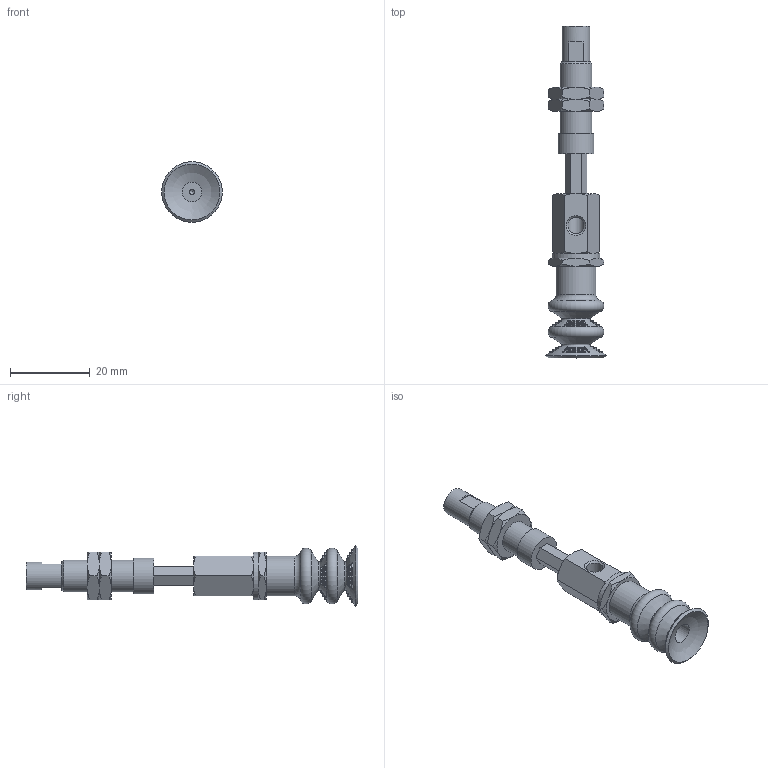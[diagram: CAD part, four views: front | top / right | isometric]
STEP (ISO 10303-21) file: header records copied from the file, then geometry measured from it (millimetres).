
FILE_DESCRIPTION(('STEP AP203'),'1');
FILE_NAME('.stp','2025-04-04T01:10:42',(' '),(' '),'Spatial InterOp 3D',' ',' ');
FILE_SCHEMA(('CONFIG_CONTROL_DESIGN'));
Length unit declared in the file: millimetre
Products named in the file (7): BNABPCYH-15-10-※; Adapter_napc-15-T; Connector_h-15-10; Nut napc_h-15-10; NAPCTH-15-10-FBODY; NAPCTH-15-10-MBODY; BPCG-15-※
Assembly tree (7 placements, depth 2):
  BNABPCYH-15-10-※
    Adapter_napc-15-T
    Connector_h-15-10
    Nut napc_h-15-10  x2
    NAPCTH-15-10-FBODY
    NAPCTH-15-10-MBODY
    BPCG-15-※
Bounding box: 15.2 x 83.2 x 15.2 mm (x, y, z)
Volume: 5600.2 mm3; surface area: 5767.9 mm2
Topology: 7 solids, 7 shells, 247 faces, 730 edges, 470 vertices
Faces by surface type: plane 70, cone 68, sphere 58, torus 34, cylinder 17
Full cylindrical faces by diameter (mm): 1.25 x1, 4.134 x3, 5 x6, 7 x1, 7.188 x2, 8 x1, 9 x1, 10 x1, 12 x1
Entity records: 7099 total; most frequent: CARTESIAN_POINT 1992, DIRECTION 1028, ORIENTED_EDGE 894, AXIS2_PLACEMENT_3D 473, EDGE_CURVE 447, VERTEX_POINT 312, EDGE_LOOP 310, FACE_OUTER_BOUND 248
